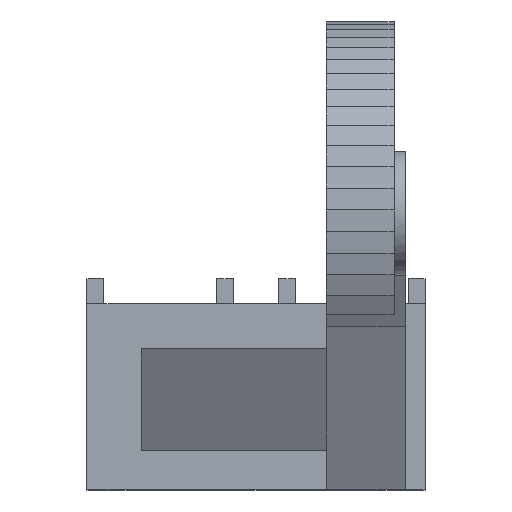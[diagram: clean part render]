
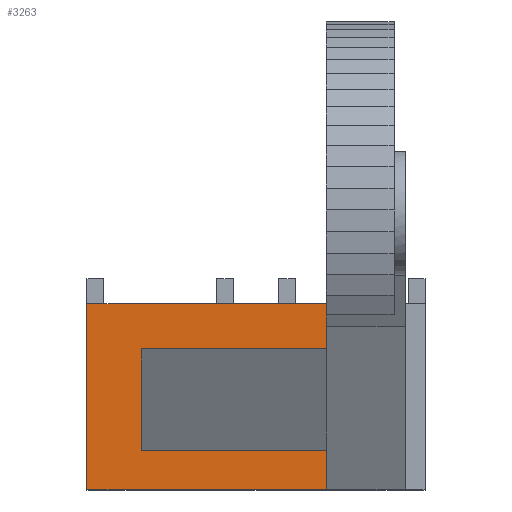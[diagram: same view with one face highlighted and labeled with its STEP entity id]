
A CAD part, top view. The second image highlights one B-rep face of the part: STEP entity #3263.
In plain terms, the highlighted planar face has unit normal (0, 0, 1).
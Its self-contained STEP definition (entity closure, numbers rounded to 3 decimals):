
#104 = PLANE('',#105);
#105 = AXIS2_PLACEMENT_3D('',#106,#107,#108);
#106 = CARTESIAN_POINT('',(6.5,0.,0.));
#107 = DIRECTION('',(1.,0.,0.));
#108 = DIRECTION('',(-0.,0.,1.));
#318 = PLANE('',#319);
#319 = AXIS2_PLACEMENT_3D('',#320,#321,#322);
#320 = CARTESIAN_POINT('',(6.5,-49.,-41.));
#321 = DIRECTION('',(0.,-1.,0.));
#322 = DIRECTION('',(0.,0.,1.));
#371 = PLANE('',#372);
#372 = AXIS2_PLACEMENT_3D('',#373,#374,#375);
#373 = CARTESIAN_POINT('',(-36.,-16.,-58.));
#374 = DIRECTION('',(0.,1.,0.));
#375 = DIRECTION('',(0.,0.,1.));
#609 = PLANE('',#610);
#610 = AXIS2_PLACEMENT_3D('',#611,#612,#613);
#611 = CARTESIAN_POINT('',(-27.,-24.,-40.5));
#612 = DIRECTION('',(-0.619,0.,0.785));
#613 = DIRECTION('',(0.785,0.,0.619));
#621 = VERTEX_POINT('',#622);
#622 = CARTESIAN_POINT('',(6.5,-24.,-40.));
#635 = PLANE('',#636);
#636 = AXIS2_PLACEMENT_3D('',#637,#638,#639);
#637 = CARTESIAN_POINT('',(-5.873,-24.,-31.577));
#638 = DIRECTION('',(0.,1.,0.));
#639 = DIRECTION('',(0.,-0.,1.));
#646 = EDGE_CURVE('',#647,#621,#649,.T.);
#647 = VERTEX_POINT('',#648);
#648 = CARTESIAN_POINT('',(6.5,-16.,-40.));
#649 = SURFACE_CURVE('',#650,(#654,#660),.PCURVE_S1.);
#650 = LINE('',#651,#652);
#651 = CARTESIAN_POINT('',(6.5,-24.5,-40.));
#652 = VECTOR('',#653,1.);
#653 = DIRECTION('',(0.,-1.,0.));
#654 = PCURVE('',#104,#655);
#655 = DEFINITIONAL_REPRESENTATION('',(#656),#659);
#656 = B_SPLINE_CURVE_WITH_KNOTS('',1,(#657,#658),.UNSPECIFIED.,.F.,.F.,
  (2,2),(-8.5,24.5),.PIECEWISE_BEZIER_KNOTS.);
#657 = CARTESIAN_POINT('',(-40.,16.));
#658 = CARTESIAN_POINT('',(-40.,49.));
#659 = ( GEOMETRIC_REPRESENTATION_CONTEXT(2) 
PARAMETRIC_REPRESENTATION_CONTEXT() REPRESENTATION_CONTEXT('2D SPACE',''
  ) );
#660 = PCURVE('',#661,#666);
#661 = PLANE('',#662);
#662 = AXIS2_PLACEMENT_3D('',#663,#664,#665);
#663 = CARTESIAN_POINT('',(-36.,-49.,-40.));
#664 = DIRECTION('',(0.,0.,1.));
#665 = DIRECTION('',(1.,0.,0.));
#666 = DEFINITIONAL_REPRESENTATION('',(#667),#670);
#667 = B_SPLINE_CURVE_WITH_KNOTS('',1,(#668,#669),.UNSPECIFIED.,.F.,.F.,
  (2,2),(-8.5,24.5),.PIECEWISE_BEZIER_KNOTS.);
#668 = CARTESIAN_POINT('',(42.5,33.));
#669 = CARTESIAN_POINT('',(42.5,0.));
#670 = ( GEOMETRIC_REPRESENTATION_CONTEXT(2) 
PARAMETRIC_REPRESENTATION_CONTEXT() REPRESENTATION_CONTEXT('2D SPACE',''
  ) );
#2033 = PLANE('',#2034);
#2034 = AXIS2_PLACEMENT_3D('',#2035,#2036,#2037);
#2035 = CARTESIAN_POINT('',(6.5,0.,0.));
#2036 = DIRECTION('',(1.,0.,0.));
#2037 = DIRECTION('',(-0.,0.,1.));
#2129 = PLANE('',#2130);
#2130 = AXIS2_PLACEMENT_3D('',#2131,#2132,#2133);
#2131 = CARTESIAN_POINT('',(-5.873,-42.,-31.577));
#2132 = DIRECTION('',(0.,1.,0.));
#2133 = DIRECTION('',(0.,-0.,1.));
#2532 = VERTEX_POINT('',#2533);
#2533 = CARTESIAN_POINT('',(-36.,-16.,-40.));
#2547 = PLANE('',#2548);
#2548 = AXIS2_PLACEMENT_3D('',#2549,#2550,#2551);
#2549 = CARTESIAN_POINT('',(-36.,-49.,-58.));
#2550 = DIRECTION('',(1.,0.,0.));
#2551 = DIRECTION('',(0.,0.,1.));
#2559 = EDGE_CURVE('',#2532,#647,#2560,.T.);
#2560 = SURFACE_CURVE('',#2561,(#2565,#2572),.PCURVE_S1.);
#2561 = LINE('',#2562,#2563);
#2562 = CARTESIAN_POINT('',(-36.,-16.,-40.));
#2563 = VECTOR('',#2564,1.);
#2564 = DIRECTION('',(1.,0.,0.));
#2565 = PCURVE('',#371,#2566);
#2566 = DEFINITIONAL_REPRESENTATION('',(#2567),#2571);
#2567 = LINE('',#2568,#2569);
#2568 = CARTESIAN_POINT('',(18.,0.));
#2569 = VECTOR('',#2570,1.);
#2570 = DIRECTION('',(0.,1.));
#2571 = ( GEOMETRIC_REPRESENTATION_CONTEXT(2) 
PARAMETRIC_REPRESENTATION_CONTEXT() REPRESENTATION_CONTEXT('2D SPACE',''
  ) );
#2572 = PCURVE('',#661,#2573);
#2573 = DEFINITIONAL_REPRESENTATION('',(#2574),#2578);
#2574 = LINE('',#2575,#2576);
#2575 = CARTESIAN_POINT('',(0.,33.));
#2576 = VECTOR('',#2577,1.);
#2577 = DIRECTION('',(1.,0.));
#2578 = ( GEOMETRIC_REPRESENTATION_CONTEXT(2) 
PARAMETRIC_REPRESENTATION_CONTEXT() REPRESENTATION_CONTEXT('2D SPACE',''
  ) );
#2584 = VERTEX_POINT('',#2585);
#2585 = CARTESIAN_POINT('',(6.5,-49.,-40.));
#2606 = EDGE_CURVE('',#2607,#2584,#2609,.T.);
#2607 = VERTEX_POINT('',#2608);
#2608 = CARTESIAN_POINT('',(-36.,-49.,-40.));
#2609 = SURFACE_CURVE('',#2610,(#2614,#2621),.PCURVE_S1.);
#2610 = LINE('',#2611,#2612);
#2611 = CARTESIAN_POINT('',(-36.,-49.,-40.));
#2612 = VECTOR('',#2613,1.);
#2613 = DIRECTION('',(1.,0.,0.));
#2614 = PCURVE('',#318,#2615);
#2615 = DEFINITIONAL_REPRESENTATION('',(#2616),#2620);
#2616 = LINE('',#2617,#2618);
#2617 = CARTESIAN_POINT('',(1.,42.5));
#2618 = VECTOR('',#2619,1.);
#2619 = DIRECTION('',(0.,-1.));
#2620 = ( GEOMETRIC_REPRESENTATION_CONTEXT(2) 
PARAMETRIC_REPRESENTATION_CONTEXT() REPRESENTATION_CONTEXT('2D SPACE',''
  ) );
#2621 = PCURVE('',#661,#2622);
#2622 = DEFINITIONAL_REPRESENTATION('',(#2623),#2627);
#2623 = LINE('',#2624,#2625);
#2624 = CARTESIAN_POINT('',(0.,0.));
#2625 = VECTOR('',#2626,1.);
#2626 = DIRECTION('',(1.,0.));
#2627 = ( GEOMETRIC_REPRESENTATION_CONTEXT(2) 
PARAMETRIC_REPRESENTATION_CONTEXT() REPRESENTATION_CONTEXT('2D SPACE',''
  ) );
#3097 = VERTEX_POINT('',#3098);
#3098 = CARTESIAN_POINT('',(-26.366,-24.,-40.));
#3119 = EDGE_CURVE('',#3097,#3120,#3122,.T.);
#3120 = VERTEX_POINT('',#3121);
#3121 = CARTESIAN_POINT('',(-26.366,-42.,-40.));
#3122 = SURFACE_CURVE('',#3123,(#3127,#3133),.PCURVE_S1.);
#3123 = LINE('',#3124,#3125);
#3124 = CARTESIAN_POINT('',(-26.366,-36.5,-40.));
#3125 = VECTOR('',#3126,1.);
#3126 = DIRECTION('',(0.,-1.,0.));
#3127 = PCURVE('',#609,#3128);
#3128 = DEFINITIONAL_REPRESENTATION('',(#3129),#3132);
#3129 = B_SPLINE_CURVE_WITH_KNOTS('',1,(#3130,#3131),.UNSPECIFIED.,.F.,
  .F.,(2,2),(-12.5,5.5),.PIECEWISE_BEZIER_KNOTS.);
#3130 = CARTESIAN_POINT('',(0.807,0.));
#3131 = CARTESIAN_POINT('',(0.807,-18.));
#3132 = ( GEOMETRIC_REPRESENTATION_CONTEXT(2) 
PARAMETRIC_REPRESENTATION_CONTEXT() REPRESENTATION_CONTEXT('2D SPACE',''
  ) );
#3133 = PCURVE('',#661,#3134);
#3134 = DEFINITIONAL_REPRESENTATION('',(#3135),#3138);
#3135 = B_SPLINE_CURVE_WITH_KNOTS('',1,(#3136,#3137),.UNSPECIFIED.,.F.,
  .F.,(2,2),(-12.5,5.5),.PIECEWISE_BEZIER_KNOTS.);
#3136 = CARTESIAN_POINT('',(9.634,25.));
#3137 = CARTESIAN_POINT('',(9.634,7.));
#3138 = ( GEOMETRIC_REPRESENTATION_CONTEXT(2) 
PARAMETRIC_REPRESENTATION_CONTEXT() REPRESENTATION_CONTEXT('2D SPACE',''
  ) );
#3216 = EDGE_CURVE('',#621,#3097,#3217,.T.);
#3217 = SURFACE_CURVE('',#3218,(#3222,#3228),.PCURVE_S1.);
#3218 = LINE('',#3219,#3220);
#3219 = CARTESIAN_POINT('',(-20.937,-24.,-40.));
#3220 = VECTOR('',#3221,1.);
#3221 = DIRECTION('',(-1.,0.,0.));
#3222 = PCURVE('',#635,#3223);
#3223 = DEFINITIONAL_REPRESENTATION('',(#3224),#3227);
#3224 = B_SPLINE_CURVE_WITH_KNOTS('',1,(#3225,#3226),.UNSPECIFIED.,.F.,
  .F.,(2,2),(-27.437,6.063),.PIECEWISE_BEZIER_KNOTS.);
#3225 = CARTESIAN_POINT('',(-8.423,12.373));
#3226 = CARTESIAN_POINT('',(-8.423,-21.127));
#3227 = ( GEOMETRIC_REPRESENTATION_CONTEXT(2) 
PARAMETRIC_REPRESENTATION_CONTEXT() REPRESENTATION_CONTEXT('2D SPACE',''
  ) );
#3228 = PCURVE('',#661,#3229);
#3229 = DEFINITIONAL_REPRESENTATION('',(#3230),#3233);
#3230 = B_SPLINE_CURVE_WITH_KNOTS('',1,(#3231,#3232),.UNSPECIFIED.,.F.,
  .F.,(2,2),(-27.437,6.063),.PIECEWISE_BEZIER_KNOTS.);
#3231 = CARTESIAN_POINT('',(42.5,25.));
#3232 = CARTESIAN_POINT('',(9.,25.));
#3233 = ( GEOMETRIC_REPRESENTATION_CONTEXT(2) 
PARAMETRIC_REPRESENTATION_CONTEXT() REPRESENTATION_CONTEXT('2D SPACE',''
  ) );
#3263 = ADVANCED_FACE('',(#3264),#661,.T.);
#3264 = FACE_BOUND('',#3265,.T.);
#3265 = EDGE_LOOP('',(#3266,#3267,#3288,#3289,#3310,#3329,#3330,#3331));
#3266 = ORIENTED_EDGE('',*,*,#2559,.F.);
#3267 = ORIENTED_EDGE('',*,*,#3268,.F.);
#3268 = EDGE_CURVE('',#2607,#2532,#3269,.T.);
#3269 = SURFACE_CURVE('',#3270,(#3274,#3281),.PCURVE_S1.);
#3270 = LINE('',#3271,#3272);
#3271 = CARTESIAN_POINT('',(-36.,-49.,-40.));
#3272 = VECTOR('',#3273,1.);
#3273 = DIRECTION('',(0.,1.,0.));
#3274 = PCURVE('',#661,#3275);
#3275 = DEFINITIONAL_REPRESENTATION('',(#3276),#3280);
#3276 = LINE('',#3277,#3278);
#3277 = CARTESIAN_POINT('',(0.,0.));
#3278 = VECTOR('',#3279,1.);
#3279 = DIRECTION('',(0.,1.));
#3280 = ( GEOMETRIC_REPRESENTATION_CONTEXT(2) 
PARAMETRIC_REPRESENTATION_CONTEXT() REPRESENTATION_CONTEXT('2D SPACE',''
  ) );
#3281 = PCURVE('',#2547,#3282);
#3282 = DEFINITIONAL_REPRESENTATION('',(#3283),#3287);
#3283 = LINE('',#3284,#3285);
#3284 = CARTESIAN_POINT('',(18.,0.));
#3285 = VECTOR('',#3286,1.);
#3286 = DIRECTION('',(0.,-1.));
#3287 = ( GEOMETRIC_REPRESENTATION_CONTEXT(2) 
PARAMETRIC_REPRESENTATION_CONTEXT() REPRESENTATION_CONTEXT('2D SPACE',''
  ) );
#3288 = ORIENTED_EDGE('',*,*,#2606,.T.);
#3289 = ORIENTED_EDGE('',*,*,#3290,.F.);
#3290 = EDGE_CURVE('',#3291,#2584,#3293,.T.);
#3291 = VERTEX_POINT('',#3292);
#3292 = CARTESIAN_POINT('',(6.5,-42.,-40.));
#3293 = SURFACE_CURVE('',#3294,(#3298,#3304),.PCURVE_S1.);
#3294 = LINE('',#3295,#3296);
#3295 = CARTESIAN_POINT('',(6.5,-24.5,-40.));
#3296 = VECTOR('',#3297,1.);
#3297 = DIRECTION('',(0.,-1.,0.));
#3298 = PCURVE('',#661,#3299);
#3299 = DEFINITIONAL_REPRESENTATION('',(#3300),#3303);
#3300 = B_SPLINE_CURVE_WITH_KNOTS('',1,(#3301,#3302),.UNSPECIFIED.,.F.,
  .F.,(2,2),(-8.5,24.5),.PIECEWISE_BEZIER_KNOTS.);
#3301 = CARTESIAN_POINT('',(42.5,33.));
#3302 = CARTESIAN_POINT('',(42.5,0.));
#3303 = ( GEOMETRIC_REPRESENTATION_CONTEXT(2) 
PARAMETRIC_REPRESENTATION_CONTEXT() REPRESENTATION_CONTEXT('2D SPACE',''
  ) );
#3304 = PCURVE('',#2033,#3305);
#3305 = DEFINITIONAL_REPRESENTATION('',(#3306),#3309);
#3306 = B_SPLINE_CURVE_WITH_KNOTS('',1,(#3307,#3308),.UNSPECIFIED.,.F.,
  .F.,(2,2),(-8.5,24.5),.PIECEWISE_BEZIER_KNOTS.);
#3307 = CARTESIAN_POINT('',(-40.,16.));
#3308 = CARTESIAN_POINT('',(-40.,49.));
#3309 = ( GEOMETRIC_REPRESENTATION_CONTEXT(2) 
PARAMETRIC_REPRESENTATION_CONTEXT() REPRESENTATION_CONTEXT('2D SPACE',''
  ) );
#3310 = ORIENTED_EDGE('',*,*,#3311,.T.);
#3311 = EDGE_CURVE('',#3291,#3120,#3312,.T.);
#3312 = SURFACE_CURVE('',#3313,(#3317,#3323),.PCURVE_S1.);
#3313 = LINE('',#3314,#3315);
#3314 = CARTESIAN_POINT('',(-20.937,-42.,-40.));
#3315 = VECTOR('',#3316,1.);
#3316 = DIRECTION('',(-1.,0.,0.));
#3317 = PCURVE('',#661,#3318);
#3318 = DEFINITIONAL_REPRESENTATION('',(#3319),#3322);
#3319 = B_SPLINE_CURVE_WITH_KNOTS('',1,(#3320,#3321),.UNSPECIFIED.,.F.,
  .F.,(2,2),(-27.437,6.063),.PIECEWISE_BEZIER_KNOTS.);
#3320 = CARTESIAN_POINT('',(42.5,7.));
#3321 = CARTESIAN_POINT('',(9.,7.));
#3322 = ( GEOMETRIC_REPRESENTATION_CONTEXT(2) 
PARAMETRIC_REPRESENTATION_CONTEXT() REPRESENTATION_CONTEXT('2D SPACE',''
  ) );
#3323 = PCURVE('',#2129,#3324);
#3324 = DEFINITIONAL_REPRESENTATION('',(#3325),#3328);
#3325 = B_SPLINE_CURVE_WITH_KNOTS('',1,(#3326,#3327),.UNSPECIFIED.,.F.,
  .F.,(2,2),(-27.437,6.063),.PIECEWISE_BEZIER_KNOTS.);
#3326 = CARTESIAN_POINT('',(-8.423,12.373));
#3327 = CARTESIAN_POINT('',(-8.423,-21.127));
#3328 = ( GEOMETRIC_REPRESENTATION_CONTEXT(2) 
PARAMETRIC_REPRESENTATION_CONTEXT() REPRESENTATION_CONTEXT('2D SPACE',''
  ) );
#3329 = ORIENTED_EDGE('',*,*,#3119,.F.);
#3330 = ORIENTED_EDGE('',*,*,#3216,.F.);
#3331 = ORIENTED_EDGE('',*,*,#646,.F.);
